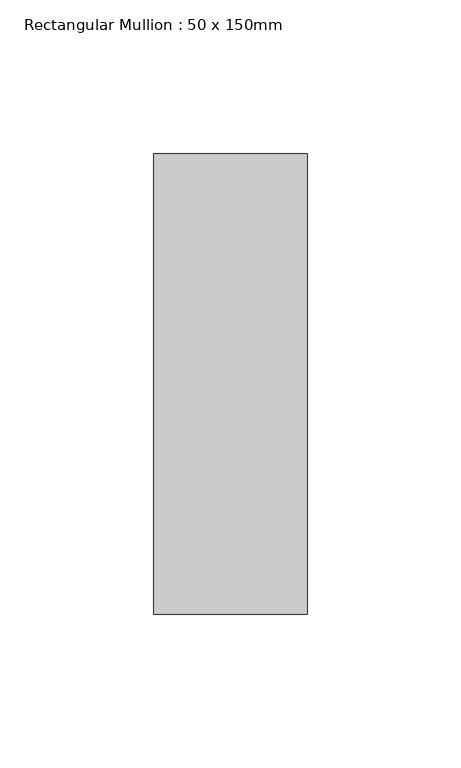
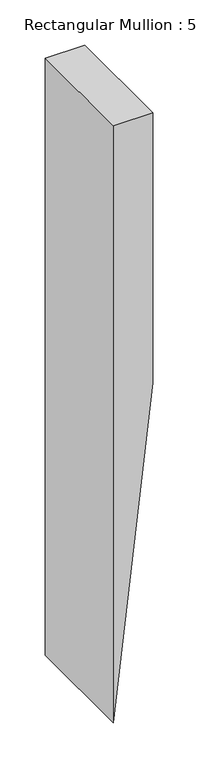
"""IFC4 building model written with IfcOpenShell, lengths in millimetres: member geometry, Rectangular Mullion : 50 x 150mm."""

import ifcopenshell
import ifcopenshell.guid

model = None  # the IFC model being written
_history = None  # IfcOwnerHistory: only IFC2X3 demands one
_inside = {}  # id of a spatial element -> (the spatial element, [elements in it])
_under = {}  # id of a project, library or spatial element -> (it, [spatial elements below it])
_declared = {}  # id of a project -> (the project, [libraries it declares])
_typed = {}  # id of a type object -> (the type object, [elements of that type])
_made_of = {}  # id of a material, layer set ... -> (it, [elements and type objects made of it])


def new_model(schema):
    """Start an empty IFC model of exactly this schema.

    Asked for "IFC4X3", IfcOpenShell would pick the latest addendum, in which some entities
    have other attributes; the version numbers below select the first issue.
    IFC2X3 requires an IfcOwnerHistory on every rooted entity: one is made here for all.
    """
    global model, _history
    if schema == "IFC4X3":
        model = ifcopenshell.file(schema_version=(4, 3, 0, 0))
    else:
        model = ifcopenshell.file(schema=schema)
    _inside.clear()
    _under.clear()
    _declared.clear()
    _typed.clear()
    _made_of.clear()
    _history = None
    if model.schema == "IFC2X3":
        org = make("IfcOrganization", Name="unknown")
        user = make(
            "IfcPersonAndOrganization",
            ThePerson=make("IfcPerson", FamilyName="unknown"),
            TheOrganization=org,
        )
        app = make(
            "IfcApplication",
            ApplicationDeveloper=org,
            Version="unknown",
            ApplicationFullName="unknown",
            ApplicationIdentifier="unknown",
        )
        _history = make(
            "IfcOwnerHistory",
            OwningUser=user,
            OwningApplication=app,
            ChangeAction="ADDED",
            CreationDate=0,
        )
    return model


def make(cls, **values):
    """One entity of the class cls with the attributes given. An attribute that is None is left unset."""
    return model.create_entity(
        cls, **{name: value for name, value in values.items() if value is not None}
    )


def rooted(cls, **values):
    """An entity with a GlobalId (a new one), such as an element, a storey or a relation."""
    return make(cls, GlobalId=ifcopenshell.guid.new(), OwnerHistory=_history, **values)


def si_unit(unit_type, name, prefix=None):
    """IfcSIUnit, for example si_unit("LENGTHUNIT", "METRE", prefix="MILLI")."""
    return make("IfcSIUnit", UnitType=unit_type, Prefix=prefix, Name=name)


def assignment(units):
    """IfcUnitAssignment: the units of a project."""
    return None if units is None else make("IfcUnitAssignment", Units=units)


def point(xyz):
    """IfcCartesianPoint."""
    return None if xyz is None else make("IfcCartesianPoint", Coordinates=xyz)


def direction(xyz):
    """IfcDirection."""
    return None if xyz is None else make("IfcDirection", DirectionRatios=xyz)


def frame(location, z_axis=None, x_axis=None):
    """IfcAxis2Placement3D, a coordinate frame: its origin and axes. An axis left out is left unset."""
    return make(
        "IfcAxis2Placement3D",
        Location=point(location),
        Axis=direction(z_axis),
        RefDirection=direction(x_axis),
    )


def origin():
    """The frame at (0, 0, 0) with its axes left unset."""
    return frame((0.0, 0.0, 0.0))


def place(relative_to, where):
    """IfcLocalPlacement: puts the frame where relative to a parent placement (None: the world)."""
    return make(
        "IfcLocalPlacement", PlacementRelTo=relative_to, RelativePlacement=where
    )


def context(
    kind, dimensions, precision=None, world=None, true_north=None, identifier=None
):
    """IfcGeometricRepresentationContext, for example the 3D "Model" context."""
    return make(
        "IfcGeometricRepresentationContext",
        ContextIdentifier=identifier,
        ContextType=kind,
        CoordinateSpaceDimension=dimensions,
        Precision=precision,
        WorldCoordinateSystem=world,
        TrueNorth=true_north,
    )


def project(units=None, contexts=None):
    """IfcProject with its units and contexts."""
    return rooted(
        "IfcProject",
        Name="project",
        RepresentationContexts=contexts,
        UnitsInContext=assignment(units),
    )


def spatial(cls, under=None, at=None, **own):
    """A site, building, storey or space (cls), placed at a placement, below another one or the project."""
    s = rooted(cls, ObjectPlacement=at, **own)
    if under is not None:
        _under.setdefault(under.id(), (under, []))[1].append(s)
    return s


def polyline(points):
    """IfcPolyline through the points."""
    return make("IfcPolyline", Points=[point(p) for p in points])


def outline(outer, holes=None, kind="AREA"):
    """IfcArbitraryClosedProfileDef: a profile drawn as a closed curve; with holes, ...WithVoids."""
    if holes is None:
        return make("IfcArbitraryClosedProfileDef", ProfileType=kind, OuterCurve=outer)
    return make(
        "IfcArbitraryProfileDefWithVoids",
        ProfileType=kind,
        OuterCurve=outer,
        InnerCurves=holes,
    )


def extrude(swept, where, along, depth):
    """IfcExtrudedAreaSolid: the profile swept, set in the frame where, extruded along a direction by depth."""
    return make(
        "IfcExtrudedAreaSolid",
        SweptArea=swept,
        Position=where,
        ExtrudedDirection=direction(along),
        Depth=depth,
    )


def shape(context_of_items, identifier, shape_type, items):
    """IfcShapeRepresentation: the items that make up one representation, for example the "Body"."""
    return make(
        "IfcShapeRepresentation",
        ContextOfItems=context_of_items,
        RepresentationIdentifier=identifier,
        RepresentationType=shape_type,
        Items=items,
    )


def source(mapping_origin, context_of_items, identifier, shape_type, items):
    """IfcRepresentationMap: a shape defined once, which mapped items show again and again."""
    return make(
        "IfcRepresentationMap",
        MappingOrigin=mapping_origin,
        MappedRepresentation=shape(context_of_items, identifier, shape_type, items),
    )


def transform(
    local_origin,
    x_axis=None,
    y_axis=None,
    z_axis=None,
    scale=None,
    scale2=None,
    scale3=None,
    uniform=True,
):
    """IfcCartesianTransformationOperator3D, or its non-uniform kind. x_axis, y_axis, z_axis: its Axis1, 2, 3."""
    if uniform:
        return make(
            "IfcCartesianTransformationOperator3D",
            Axis1=direction(x_axis),
            Axis2=direction(y_axis),
            LocalOrigin=point(local_origin),
            Scale=scale,
            Axis3=direction(z_axis),
        )
    return make(
        "IfcCartesianTransformationOperator3DnonUniform",
        Axis1=direction(x_axis),
        Axis2=direction(y_axis),
        LocalOrigin=point(local_origin),
        Scale=scale,
        Axis3=direction(z_axis),
        Scale2=scale2,
        Scale3=scale3,
    )


def mapped(mapping_source, mapping_target):
    """IfcMappedItem: shows the shape of a source again, moved by a transform."""
    return make(
        "IfcMappedItem", MappingSource=mapping_source, MappingTarget=mapping_target
    )


def made_of(thing, what):
    """Note that an element or type object is made of a material, layer set ...; save() writes the relation."""
    if what is not None:
        _made_of.setdefault(what.id(), (what, []))[1].append(thing)
    return thing


def element(
    cls,
    number,
    at=None,
    inside=None,
    cuts=None,
    type_object=None,
    material=None,
    context=None,
    identifier="Body",
    shape_type=None,
    held_by="IfcProductDefinitionShape",
    body=None,
    shapes=None,
    **own,
):
    """One element of the class cls, such as IfcWall. Its Tag is "e" and its number.

    at: its placement. inside: the storey or other place that contains it. cuts: it is an
    opening in that element (IfcRelVoidsElement). A single representation is given by context,
    identifier, shape_type and body (its items); several are given by shapes. held_by: the class
    of the entity that holds the representations. save() writes the other relations.
    """
    e = rooted(cls, Tag="e%d" % number, ObjectPlacement=at, **own)
    if body is not None:
        shapes = [shape(context, identifier, shape_type, body)]
    if shapes is not None:
        e.Representation = make(held_by, Representations=shapes)
    if inside is not None:
        _inside.setdefault(inside.id(), (inside, []))[1].append(e)
    if cuts is not None:
        rooted(
            "IfcRelVoidsElement", RelatingBuildingElement=cuts, RelatedOpeningElement=e
        )
    if type_object is not None:
        _typed.setdefault(type_object.id(), (type_object, []))[1].append(e)
    return made_of(e, material)


def aggregate(whole, parts):
    """IfcRelAggregates: a whole, such as a stair, and the parts it consists of."""
    return rooted("IfcRelAggregates", RelatingObject=whole, RelatedObjects=parts)


def save(model, path):
    """Write the relations noted so far, then the file.

    IfcRelAggregates (storeys below a building ...), IfcRelContainedInSpatialStructure (elements
    in a storey), IfcRelDefinesByType, IfcRelAssociatesMaterial and IfcRelDeclares: one each for
    every whole, place, type object, material and project.
    """
    for whole, parts in _under.values():
        aggregate(whole, parts)
    for where, things in _inside.values():
        rooted(
            "IfcRelContainedInSpatialStructure",
            RelatedElements=things,
            RelatingStructure=where,
        )
    for kind, things in _typed.values():
        rooted("IfcRelDefinesByType", RelatedObjects=things, RelatingType=kind)
    for what, things in _made_of.values():
        rooted("IfcRelAssociatesMaterial", RelatedObjects=things, RelatingMaterial=what)
    for by, libraries in _declared.values():
        rooted("IfcRelDeclares", RelatingContext=by, RelatedDefinitions=libraries)
    model.write(path)


def rectangular_mullion_50_x_150mm_2fde672a(model_context):
    return source(origin(), model_context, "Body", "SweptSolid", [
        extrude(outline(polyline([(0.0, 25.0), (0.0, -25.0), (-803.9922492, -25.0), (-363.7481179, 25.0), (0.0, 25.0)])), frame((0.0, -75.0, 0.0), z_axis=(0.0, 1.0, 0.0), x_axis=(0.0, 0.0, 1.0)), (0.0, 0.0, 1.0), 150.0),
    ])


if __name__ == "__main__":
    model = new_model("IFC4")
    model_context = context("Model", 3, world=origin())
    ifc_project = project(units=[si_unit("LENGTHUNIT", "METRE", prefix="MILLI")], contexts=[model_context])
    site = spatial("IfcSite", under=ifc_project)
    building = spatial("IfcBuilding", under=site)
    placement = place(None, origin())
    rectangular_mullion_50_x_150mm_shape = rectangular_mullion_50_x_150mm_2fde672a(model_context)
    element("IfcMember", 1, ObjectType="Rectangular Mullion : 50 x 150mm", at=placement, inside=building, context=model_context, shape_type="MappedRepresentation", body=[
        mapped(rectangular_mullion_50_x_150mm_shape, transform((0.0, 0.0, 0.0), x_axis=(1.0, 0.0, 0.0), y_axis=(0.0, 1.0, 0.0), z_axis=(0.0, 0.0, 1.0))),
    ])
    save(model, "model.ifc")
